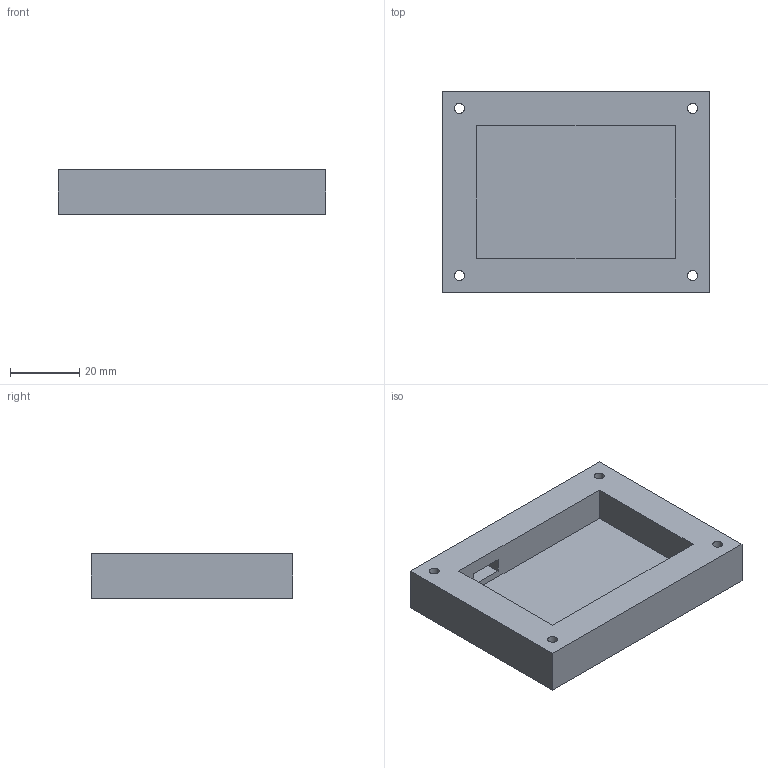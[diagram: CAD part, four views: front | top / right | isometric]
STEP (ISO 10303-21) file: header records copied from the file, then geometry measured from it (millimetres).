
FILE_DESCRIPTION(/* description */ ('STEP AP242 Edition 2','CAx-IF Rec.Pracs.---Representation and Presentation of Product Manufacturing Information (PMI)---4.0---2014-10-13','CAx-IF Rec.Pracs.---3D Tessellated Geometry---0.4---2014-09-14','2;1','CAx-IF Rec.Pracs.---User Defined Attributes---1.5---2016-08-15'),/* implementation_level */ '2;1');
FILE_NAME(/* name */ 'Part Studio 1 - Part 1',/* time_stamp */ '2026-08-15T07:22:08Z',/* author */ (''),/* organization */ (''),/* preprocessor_version */ 'ST-DEVELOPER v20',/* originating_system */ 'ONSHAPE BY PTC INC, 1.219',/* authorisation */ ' ');
FILE_SCHEMA (('AP242_MANAGED_MODEL_BASED_3D_ENGINEERING_MIM_LF { 1 0 10303 442 3 1 4 }'));
Length unit declared in the file: metre
Products named in the file (1): Part 1
Bounding box: 77.4 x 58.4 x 13 mm (x, y, z)
Volume: 35977 mm3; surface area: 15108 mm2
Topology: 1 solids, 1 shells, 19 faces, 48 edges, 32 vertices
Faces by surface type: plane 15, cylinder 4
Full cylindrical faces by diameter (mm): 2.9 x4
Entity records: 592 total; most frequent: CARTESIAN_POINT 96, DIRECTION 92, ORIENTED_EDGE 88, EDGE_CURVE 44, LINE 36, VECTOR 36, EDGE_LOOP 34, FACE_BOUND 34
